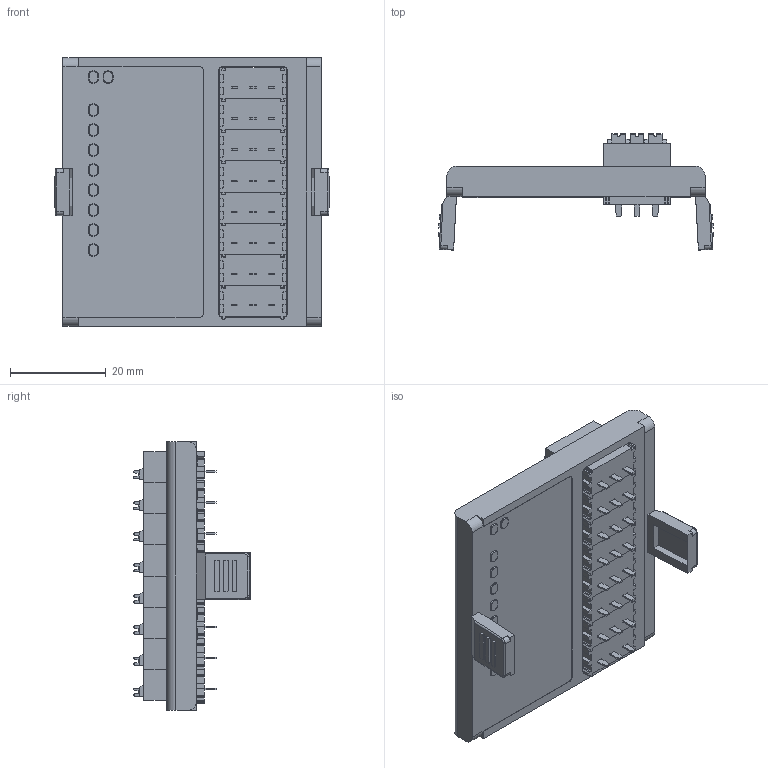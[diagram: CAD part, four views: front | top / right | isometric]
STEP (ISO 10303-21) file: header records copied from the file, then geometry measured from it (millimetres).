
FILE_DESCRIPTION(/* description */ (''),/* implementation_level */ '2;1');
FILE_NAME(/* name */ 'RS-三位一体-单排IO.stp',/* time_stamp */ '2025-10-29T09:22:57+08:00',/* author */ (''),/* organization */ (''),/* preprocessor_version */ 'ST-DEVELOPER v16',/* originating_system */ 'SIEMENS PLM Software NX 10.0',/* authorisation */ '');
FILE_SCHEMA (('AUTOMOTIVE_DESIGN { 1 0 10303 214 3 1 1 1 }'));
Products named in the file (1): chao8E5828D9vbke
Bounding box: 57.58 x 24.26 x 56.21 mm (x, y, z)
Volume: 23527 mm3; surface area: 15614.6 mm2
Topology: 11 solids, 11 shells, 2355 faces, 6673 edges, 4452 vertices
Faces by surface type: plane 1471, cylinder 774, cone 80, bspline 26, torus 4
Entity records: 92125 total; most frequent: CARTESIAN_POINT 17241, ORIENTED_EDGE 13346, DIRECTION 12189, EDGE_CURVE 6673, LINE 4641, VECTOR 4641, VERTEX_POINT 4452, AXIS2_PLACEMENT_3D 3774
